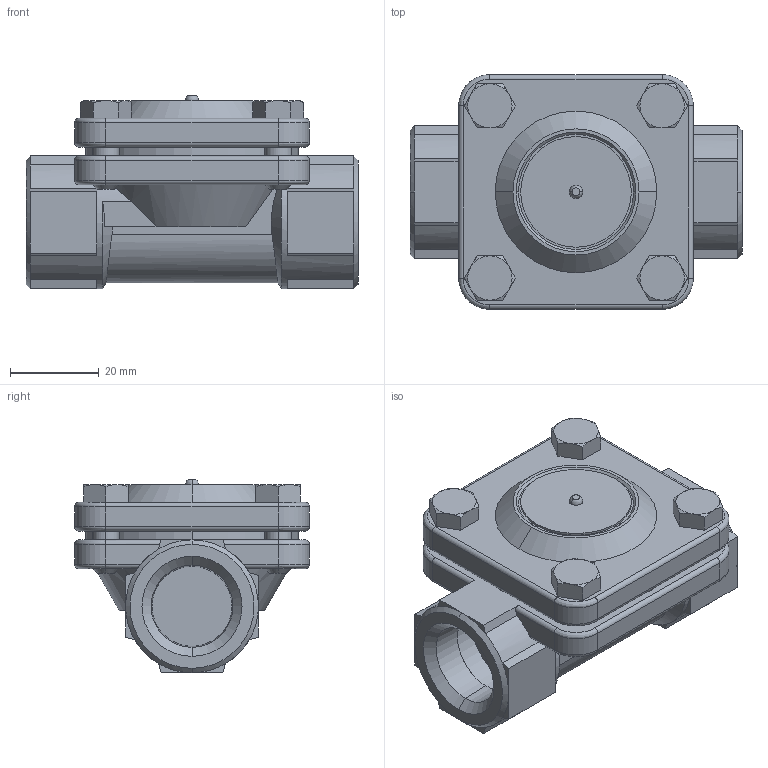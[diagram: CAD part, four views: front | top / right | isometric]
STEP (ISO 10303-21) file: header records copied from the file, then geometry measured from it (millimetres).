
FILE_DESCRIPTION( (''), '2;1');
FILE_NAME ('PC1276.4340.15A_12856.stp','2023-07-04T16:28:30',(''),(''),'spGate 19.8.4 (****-****-****-****)','','');
FILE_SCHEMA (('AUTOMOTIVE_DESIGN'));
Length unit declared in the file: millimetre
Bounding box: 75 x 53 x 43.7 mm (x, y, z)
Volume: 80530.8 mm3; surface area: 18274.8 mm2
Topology: 1 solids, 1 shells, 234 faces, 546 edges, 330 vertices
Faces by surface type: plane 111, bspline 72, cylinder 49, sphere 2
Entity records: 12051 total; most frequent: CARTESIAN_POINT 2574, ORIENTED_EDGE 1092, DIRECTION 960, COLOUR_RGB 781, PRESENTATION_STYLE_ASSIGNMENT 781, STYLED_ITEM 781, EDGE_CURVE 546, DRAUGHTING_PRE_DEFINED_CURVE_FONT 546
